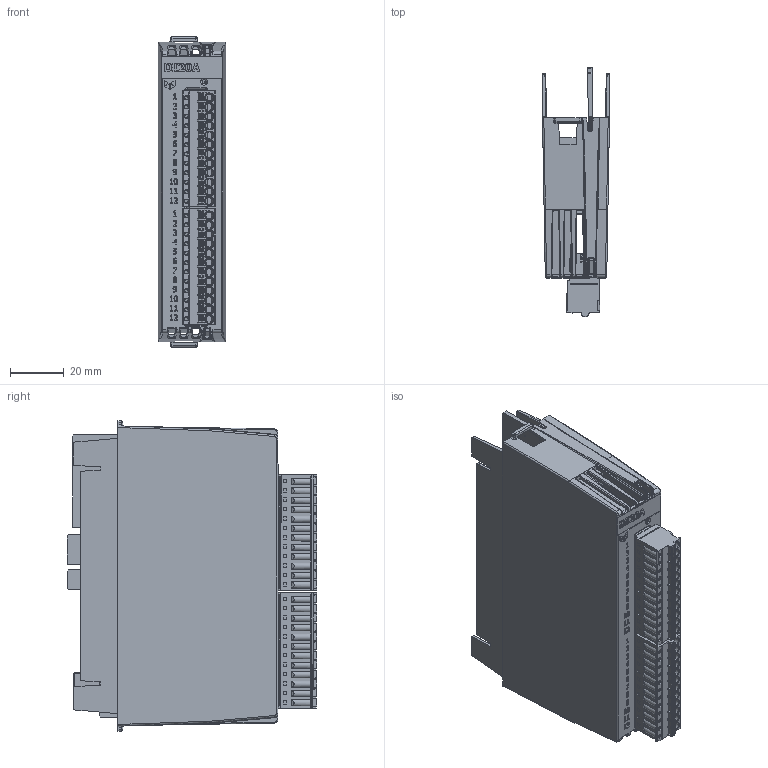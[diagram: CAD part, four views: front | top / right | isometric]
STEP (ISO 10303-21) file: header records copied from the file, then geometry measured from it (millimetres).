
FILE_DESCRIPTION(/* description */ (''),/* implementation_level */ '2;1');
FILE_NAME(/* name */ 'C:\Users\shoma\OneDrive - Brodersen\Project\3D Files\New Design\DI20A\DI20A_Simplified.stp',/* time_stamp */ '2024-10-15T20:20:37+02:00',/* author */ ('shoma'),/* organization */ (''),/* preprocessor_version */ 'ST-DEVELOPER v19',/* originating_system */ 'Autodesk Inventor 2023',/* authorisation */ '');
FILE_SCHEMA (('AUTOMOTIVE_DESIGN { 1 0 10303 214 3 1 1 }'));
Products named in the file (1): DI20A_Simplified
Bounding box: 24.95 x 92.98 x 115.5 mm (x, y, z)
Volume: 132666.4 mm3; surface area: 67327.7 mm2
Topology: 1 solids, 49 shells, 6366 faces, 16857 edges, 10791 vertices
Faces by surface type: plane 4209, cylinder 1335, bspline 558, cone 217, torus 25, sphere 22
Full cylindrical faces by diameter (mm): 0.296 x2, 0.3 x116, 0.457 x2, 1.17 x24, 1.2 x24, 1.25 x24, 1.3 x24, 1.6 x24, 2.5 x1, 3.1 x24
Entity records: 217465 total; most frequent: CARTESIAN_POINT 53822, ORIENTED_EDGE 33660, DIRECTION 30689, EDGE_CURVE 16830, LINE 12411, VECTOR 12411, VERTEX_POINT 10791, AXIS2_PLACEMENT_3D 9139
